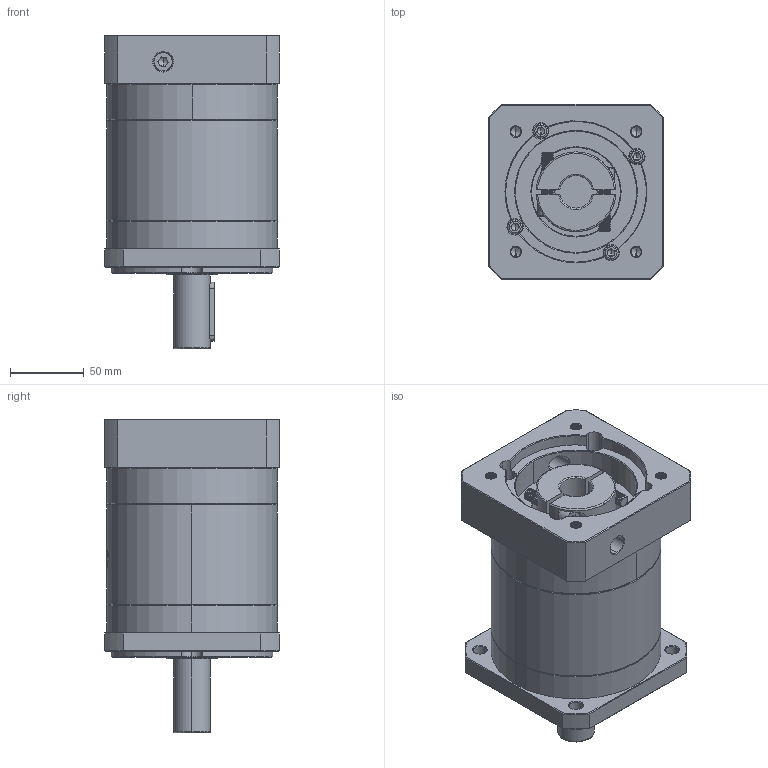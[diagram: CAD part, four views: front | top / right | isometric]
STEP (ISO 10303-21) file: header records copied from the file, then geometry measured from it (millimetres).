
FILE_DESCRIPTION (( 'STEP AP214' ), '1' );
FILE_NAME ('ZF120A-D25-L2-P2-22-95-115-M8.step', '2023-08-27T04:40:37', ( '' ), ( '' ), 'SwSTEP 2.0', 'SolidWorks 2016', '' );
FILE_SCHEMA (( 'AUTOMOTIVE_DESIGN' ));
Length unit declared in the file: millimetre
Products named in the file (1): ZF120A-D25-L2-P2-22-95-115-M8
Bounding box: 118 x 118 x 212 mm (x, y, z)
Volume: 1656572.3 mm3; surface area: 169881.7 mm2
Topology: 6 solids, 6 shells, 2234 faces, 5943 edges, 3810 vertices
Faces by surface type: plane 1034, bspline 439, cylinder 429, cone 332
Entity records: 123258 total; most frequent: CARTESIAN_POINT 48653, ORIENTED_EDGE 11826, DIRECTION 8539, EDGE_CURVE 5913, VERTEX_POINT 3810, VECTOR 3099, LINE 3099, AXIS2_PLACEMENT_3D 2720
